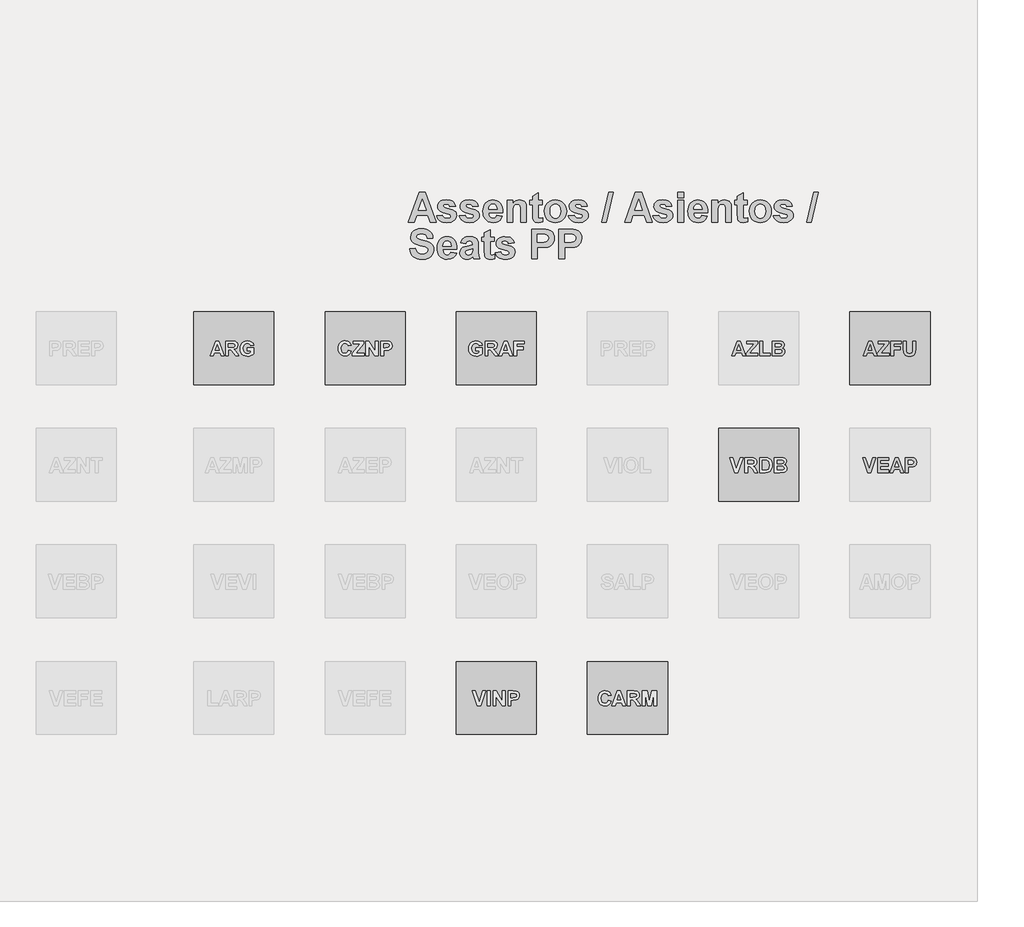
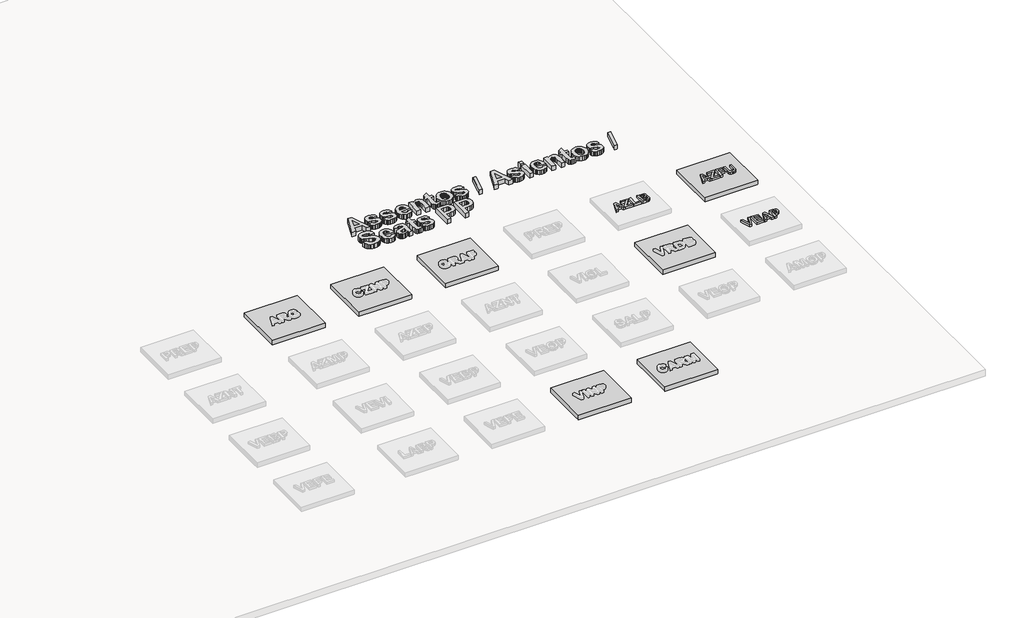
# One storey, part 10 of 11: 11 proxies.
"""IFC4 building model written with IfcOpenShell, lengths in millimetres."""

from ifc_helpers import new_model, si_unit, frame, origin, origin_with_axes, place, context, project, spatial, polyline, outline, extrude, transform, mapped, element, save
from components import generic_models_24_generic_models_1_1e7ee512, generic_models_35_generic_models_1_a8d7d454, generic_models_48_generic_models_1_82bed69a, generic_models_49_generic_models_1_e7727c0e, generic_models_53_generic_models_1_e8810a95, generic_models_54_generic_models_1_2d09a9ca, generic_models_7_generic_models_1_56dbdd54

model = new_model("IFC4")

# Units and contexts
model_context = context("Model", 3, world=origin())
ifc_project = project(units=[si_unit("LENGTHUNIT", "METRE", prefix="MILLI")], contexts=[model_context])

# Site, building, storey
site = spatial("IfcSite", under=ifc_project)
building = spatial("IfcBuilding", under=site)
storey = spatial("IfcBuildingStorey", under=building, Name="Biblioteca BIM Revit Metadil - Refeitório", Elevation=0.0)

# Proxies
placement = place(None, origin())
element("IfcBuildingElementProxy", 1, Name="Arial 200mm", ObjectType="Arial 200mm", at=placement, inside=storey, context=model_context, shape_type="SweptSolid", body=[
    extrude(outline(polyline([(12109.0036143, 1948.6533221), (12068.1628735, 1948.6533221), (12052.1707122, 1993.9981843), (11975.0945681, 1993.9981843), (11959.3048393, 1948.6533221), (11917.9074092, 1948.6533221), (11992.40254, 2152.7052021), (12033.7999701, 2152.7052021), (12109.0036143, 1948.6533221)]), holes=[polyline([(12039.7211184, 2029.6262903), (12013.4555118, 2104.1214211), (11987.5441619, 2029.6262903), (12039.7211184, 2029.6262903)])]), frame((0.0, 0.0, 100.0), z_axis=(0.0, 0.0, 1.0), x_axis=(1.0, 0.0, 0.0)), (0.0, 0.0, 1.0), 50.0),
    extrude(outline(polyline([(12112.242533, 1948.6533221), (12112.242533, 1987.5203468), (12221.6066483, 2117.077096), (12125.198208, 2117.077096), (12125.198208, 2152.7052021), (12270.9495508, 2152.7052021), (12270.9495508, 2117.077096), (12158.8525979, 1984.2814281), (12274.1884695, 1984.2814281), (12274.1884695, 1948.6533221), (12112.242533, 1948.6533221)])), frame((0.0, 0.0, 100.0), z_axis=(0.0, 0.0, 1.0), x_axis=(1.0, 0.0, 0.0)), (0.0, 0.0, 1.0), 50.0),
    extrude(outline(polyline([(12300.0998194, 1948.6533221), (12300.0998194, 2152.7052021), (12439.3733248, 2152.7052021), (12439.3733248, 2117.077096), (12338.9668441, 2117.077096), (12338.9668441, 2071.7322338), (12426.4176499, 2071.7322338), (12426.4176499, 2036.1041278), (12338.9668441, 2036.1041278), (12338.9668441, 1948.6533221), (12300.0998194, 1948.6533221)])), frame((0.0, 0.0, 100.0), z_axis=(0.0, 0.0, 1.0), x_axis=(1.0, 0.0, 0.0)), (0.0, 0.0, 1.0), 50.0),
    extrude(outline(polyline([(12471.7625121, 2152.7052021), (12510.6295368, 2152.7052021), (12510.6295368, 2042.6325734), (12512.2996043, 2008.6239267), (12517.1706344, 1997.3952534), (12526.0144008, 1988.6084211), (12538.8309034, 1982.9339873), (12555.6201423, 1981.0425094), (12572.3904032, 1982.8264451), (12584.4414582, 1988.1782522), (12592.2034763, 1996.1300507), (12596.1066264, 2005.7139606), (12598.0803425, 2040.2539924), (12598.0803425, 2152.7052021), (12636.9473673, 2152.7052021), (12636.9473673, 2045.6690597), (12633.5566243, 1993.7957519), (12628.7362022, 1979.8342409), (12621.0564223, 1968.2133547), (12610.4097422, 1958.8318772), (12596.6886197, 1951.5885922), (12579.0959771, 1946.9579506), (12556.8347368, 1945.4144034), (12530.7589107, 1947.0971228), (12511.8441314, 1952.1452813), (12498.1166828, 1959.8883214), (12487.602849, 1969.6556857), (12475.8617686, 1992.2775087), (12471.7625121, 2043.9989922), (12471.7625121, 2152.7052021)])), frame((0.0, 0.0, 100.0), z_axis=(0.0, 0.0, 1.0), x_axis=(1.0, 0.0, 0.0)), (0.0, 0.0, 1.0), 50.0),
])
element("IfcBuildingElementProxy", 2, Name="Arial 200mm", ObjectType="Arial 200mm", at=placement, inside=storey, context=model_context, shape_type="SweptSolid", body=[
    extrude(outline(polyline([(10309.0036143, 1948.6533221), (10268.1628735, 1948.6533221), (10252.1707122, 1993.9981843), (10175.0945681, 1993.9981843), (10159.3048393, 1948.6533221), (10117.9074092, 1948.6533221), (10192.40254, 2152.7052021), (10233.7999701, 2152.7052021), (10309.0036143, 1948.6533221)]), holes=[polyline([(10239.7211184, 2029.6262903), (10213.4555118, 2104.1214211), (10187.5441619, 2029.6262903), (10239.7211184, 2029.6262903)])]), frame((0.0, 0.0, 100.0), z_axis=(0.0, 0.0, 1.0), x_axis=(1.0, 0.0, 0.0)), (0.0, 0.0, 1.0), 50.0),
    extrude(outline(polyline([(10312.242533, 1948.6533221), (10312.242533, 1987.5203468), (10421.6066483, 2117.077096), (10325.198208, 2117.077096), (10325.198208, 2152.7052021), (10470.9495508, 2152.7052021), (10470.9495508, 2117.077096), (10358.8525979, 1984.2814281), (10474.1884695, 1984.2814281), (10474.1884695, 1948.6533221), (10312.242533, 1948.6533221)])), frame((0.0, 0.0, 100.0), z_axis=(0.0, 0.0, 1.0), x_axis=(1.0, 0.0, 0.0)), (0.0, 0.0, 1.0), 50.0),
    extrude(outline(polyline([(10500.0998194, 1948.6533221), (10500.0998194, 2152.7052021), (10538.9668441, 2152.7052021), (10538.9668441, 1984.2814281), (10642.6122435, 1984.2814281), (10642.6122435, 1948.6533221), (10500.0998194, 1948.6533221)])), frame((0.0, 0.0, 100.0), z_axis=(0.0, 0.0, 1.0), x_axis=(1.0, 0.0, 0.0)), (0.0, 0.0, 1.0), 50.0),
    extrude(outline(polyline([(10671.7625121, 2152.7052021), (10755.5189261, 2152.7052021), (10792.5893631, 2150.6808779), (10814.4520646, 2142.2040203), (10830.520138, 2125.0478726), (10835.34056, 2113.692679), (10836.9473673, 2101.0343267), (10835.0305853, 2087.2436181), (10829.2802394, 2074.6168958), (10820.2403666, 2064.0777579), (10808.4550041, 2056.5498023), (10823.3590911, 2049.2369311), (10834.3663539, 2038.128452), (10841.1604921, 2023.9708346), (10843.4252048, 2007.5105484), (10841.7994194, 1993.840034), (10836.9220633, 1980.5617324), (10829.2296313, 1968.7953479), (10819.1586183, 1959.660585), (10806.5888302, 1953.3408978), (10791.4000727, 1950.0197409), (10741.500481, 1948.6533221), (10671.7625121, 1948.6533221), (10671.7625121, 2152.7052021)]), holes=[polyline([(10710.6295368, 2036.1041278), (10710.6295368, 1984.2814281), (10751.7233182, 1984.2814281), (10782.1893975, 1985.4960226), (10798.3333831, 1993.2137587), (10803.0019808, 2000.4064356), (10804.55818, 2009.6866969), (10799.75041, 2024.4642636), (10785.8837892, 2033.320682), (10746.5106834, 2036.1041278), (10710.6295368, 2036.1041278)]), polyline([(10710.6295368, 2117.077096), (10710.6295368, 2071.7322338), (10740.2858865, 2071.7322338), (10773.1811548, 2072.3901392), (10791.4253767, 2079.4246658), (10796.4166011, 2086.1681958), (10798.0803425, 2094.7589217), (10796.6443376, 2102.9764127), (10792.3363226, 2109.5111843), (10775.3066952, 2116.4191907), (10736.6421029, 2117.077096), (10710.6295368, 2117.077096)])]), frame((0.0, 0.0, 100.0), z_axis=(0.0, 0.0, 1.0), x_axis=(1.0, 0.0, 0.0)), (0.0, 0.0, 1.0), 50.0),
])
element("IfcBuildingElementProxy", 3, Name="Arial 200mm", ObjectType="Arial 200mm", at=placement, inside=storey, context=model_context, shape_type="SweptSolid", body=[
    extrude(outline(polyline([(11978.5865273, 348.6533221), (11909.8101124, 552.7052021), (11950.8026776, 552.7052021), (12002.1192962, 400.4760218), (12053.5877392, 552.7052021), (12094.42848, 552.7052021), (12022.0082816, 348.6533221), (11978.5865273, 348.6533221)])), frame((0.0, 0.0, 100.0), z_axis=(0.0, 0.0, 1.0), x_axis=(1.0, 0.0, 0.0)), (0.0, 0.0, 1.0), 50.0),
    extrude(outline(polyline([(12117.1009111, 348.6533221), (12117.1009111, 552.7052021), (12269.3300915, 552.7052021), (12269.3300915, 517.077096), (12155.9679359, 517.077096), (12155.9679359, 471.7322338), (12262.852254, 471.7322338), (12262.852254, 436.1041278), (12155.9679359, 436.1041278), (12155.9679359, 384.2814281), (12272.5690102, 384.2814281), (12272.5690102, 348.6533221), (12117.1009111, 348.6533221)])), frame((0.0, 0.0, 100.0), z_axis=(0.0, 0.0, 1.0), x_axis=(1.0, 0.0, 0.0)), (0.0, 0.0, 1.0), 50.0),
    extrude(outline(polyline([(12476.6208902, 348.6533221), (12435.7801493, 348.6533221), (12419.7879881, 393.9981843), (12342.7118439, 393.9981843), (12326.9221151, 348.6533221), (12285.5246851, 348.6533221), (12360.0198159, 552.7052021), (12401.4172459, 552.7052021), (12476.6208902, 348.6533221)]), holes=[polyline([(12407.3383942, 429.6262903), (12381.0727876, 504.1214211), (12355.1614378, 429.6262903), (12407.3383942, 429.6262903)])]), frame((0.0, 0.0, 100.0), z_axis=(0.0, 0.0, 1.0), x_axis=(1.0, 0.0, 0.0)), (0.0, 0.0, 1.0), 50.0),
    extrude(outline(polyline([(12496.0544026, 348.6533221), (12496.0544026, 552.7052021), (12561.7943312, 552.7052021), (12610.5299364, 549.6687158), (12626.5663797, 542.4254307), (12639.7561171, 529.8050345), (12648.5809055, 512.2756521), (12651.5225016, 490.3054084), (12649.7955, 473.1176307), (12644.6144952, 458.9030792), (12636.7702389, 447.5415596), (12627.0534828, 438.9128776), (12605.4185178, 429.2720336), (12562.1485879, 426.3873716), (12534.9214273, 426.3873716), (12534.9214273, 348.6533221), (12496.0544026, 348.6533221)]), holes=[polyline([(12534.9214273, 517.077096), (12534.9214273, 462.0154776), (12559.0614935, 462.0154776), (12593.9051739, 465.0519639), (12607.6705785, 474.5915918), (12612.6554768, 489.6981112), (12610.9031712, 499.3516072), (12605.6462543, 507.1579074), (12587.9587215, 515.7612853), (12556.2274396, 517.077096), (12534.9214273, 517.077096)])]), frame((0.0, 0.0, 100.0), z_axis=(0.0, 0.0, 1.0), x_axis=(1.0, 0.0, 0.0)), (0.0, 0.0, 1.0), 50.0),
])
element("IfcBuildingElementProxy", 4, Name="Arial 400mm", ObjectType="Arial 400mm", at=placement, inside=storey, context=model_context, shape_type="SweptSolid", body=[
    extrude(outline(polyline([(6061.9176964, 3784.7471537), (5980.2362147, 3784.7471537), (5948.2518922, 3875.4368782), (5794.0996039, 3875.4368782), (5762.5201463, 3784.7471537), (5679.7252863, 3784.7471537), (5828.7155478, 4192.8509137), (5911.5104079, 4192.8509137), (6061.9176964, 3784.7471537)]), holes=[polyline([(5923.3527045, 3946.6930902), (5870.8214913, 4095.6833518), (5818.9987917, 3946.6930902), (5923.3527045, 3946.6930902)])]), origin_with_axes(), (0.0, 0.0, 1.0), 100.0),
    extrude(outline(polyline([(6068.3955339, 3868.9590407), (6146.1295834, 3881.9147156), (6153.5310188, 3862.3293789), (6166.0185687, 3848.1085014), (6184.0224021, 3839.4545154), (6207.9726879, 3836.5698534), (6233.9599499, 3839.3279952), (6252.6090366, 3847.6024203), (6260.2002524, 3856.6106631), (6262.7306577, 3868.2505272), (6257.3661985, 3882.8256615), (6231.9609297, 3893.0484988), (6156.8838057, 3912.9374841), (6115.4610717, 3931.1057939), (6100.5380067, 3944.3208353), (6089.8786745, 3959.8765016), (6083.4830752, 3977.7727928), (6081.3512088, 3998.0097089), (6083.1794266, 4016.5259493), (6088.66408, 4033.5112946), (6097.805169, 4048.9657447), (6110.6026936, 4062.8892997), (6127.2464341, 4074.4026436), (6147.9261711, 4082.6264607), (6172.6419045, 4087.5607509), (6201.3936342, 4089.2055144), (6252.3813002, 4083.8916633), (6272.2386554, 4077.2493495), (6288.3383589, 4067.9501102), (6301.4521841, 4056.0445535), (6312.3519048, 4041.5832874), (6327.5090323, 4004.9936274), (6249.7749827, 3992.0379525), (6244.0562669, 4008.662715), (6234.7949836, 4020.8845724), (6221.4344439, 4028.399876), (6203.4179584, 4030.9049772), (6181.2769124, 4028.7794368), (6166.4740417, 4022.4028156), (6160.9324541, 4015.418897), (6159.0852583, 4006.6130867), (6160.9324541, 3998.9965669), (6166.4740417, 3992.5440335), (6188.6277397, 3983.2574462), (6235.2504566, 3970.7825483), (6285.2133084, 3955.0687316), (6317.3874112, 3936.0653882), (6327.4837282, 3924.5583702), (6334.6953832, 3910.9890721), (6339.0223762, 3895.3574936), (6340.4647072, 3877.6636348), (6338.3739598, 3857.9865709), (6332.1017178, 3839.745512), (6321.6479811, 3822.9404581), (6307.0127497, 3807.5714092), (6288.2782617, 3794.7517435), (6265.5267555, 3785.5948395), (6238.7582309, 3780.1006971), (6207.9726879, 3778.2693163), (6179.7681583, 3779.7938854), (6154.6697011, 3784.367593), (6132.6773164, 3791.9904388), (6113.7910042, 3802.662423), (6097.9538303, 3815.9533766), (6085.1088606, 3831.4331307), (6075.2560951, 3849.1016855), (6068.3955339, 3868.9590407)])), origin_with_axes(), (0.0, 0.0, 1.0), 100.0),
    extrude(outline(polyline([(6379.3317319, 3868.9590407), (6457.0657815, 3881.9147156), (6464.4672168, 3862.3293789), (6476.9547668, 3848.1085014), (6494.9586002, 3839.4545154), (6518.908886, 3836.5698534), (6544.896148, 3839.3279952), (6563.5452347, 3847.6024203), (6571.1364505, 3856.6106631), (6573.6668557, 3868.2505272), (6568.3023966, 3882.8256615), (6542.8971278, 3893.0484988), (6467.8200038, 3912.9374841), (6426.3972697, 3931.1057939), (6411.4742047, 3944.3208353), (6400.8148726, 3959.8765016), (6394.4192733, 3977.7727928), (6392.2874069, 3998.0097089), (6394.1156247, 4016.5259493), (6399.6002781, 4033.5112946), (6408.7413671, 4048.9657447), (6421.5388916, 4062.8892997), (6438.1826322, 4074.4026436), (6458.8623692, 4082.6264607), (6483.5781026, 4087.5607509), (6512.3298323, 4089.2055144), (6563.3174982, 4083.8916633), (6583.1748535, 4077.2493495), (6599.274557, 4067.9501102), (6612.3883822, 4056.0445535), (6623.2881029, 4041.5832874), (6638.4452303, 4004.9936274), (6560.7111808, 3992.0379525), (6554.9924649, 4008.662715), (6545.7311817, 4020.8845724), (6532.3706419, 4028.399876), (6514.3541565, 4030.9049772), (6492.2131105, 4028.7794368), (6477.4102397, 4022.4028156), (6471.8686522, 4015.418897), (6470.0214564, 4006.6130867), (6471.8686522, 3998.9965669), (6477.4102397, 3992.5440335), (6499.5639378, 3983.2574462), (6546.1866546, 3970.7825483), (6596.1495065, 3955.0687316), (6628.3236093, 3936.0653882), (6638.4199263, 3924.5583702), (6645.6315813, 3910.9890721), (6649.9585743, 3895.3574936), (6651.4009053, 3877.6636348), (6649.3101579, 3857.9865709), (6643.0379159, 3839.745512), (6632.5841792, 3822.9404581), (6617.9489478, 3807.5714092), (6599.2144598, 3794.7517435), (6576.4629536, 3785.5948395), (6549.6944289, 3780.1006971), (6518.908886, 3778.2693163), (6490.7043564, 3779.7938854), (6465.6058992, 3784.367593), (6443.6135145, 3791.9904388), (6424.7272023, 3802.662423), (6408.8900284, 3815.9533766), (6396.0450587, 3831.4331307), (6386.1922932, 3849.1016855), (6379.3317319, 3868.9590407)])), origin_with_axes(), (0.0, 0.0, 1.0), 100.0),
    extrude(outline(polyline([(6891.0808913, 3875.4368782), (6968.8149408, 3862.4812033), (6949.8875095, 3826.2078439), (6937.2354832, 3811.7623929), (6922.4579165, 3799.777761), (6905.6243955, 3790.3678164), (6886.8045064, 3783.6464275), (6843.2056238, 3778.2693163), (6808.0013607, 3781.4386489), (6777.6934317, 3790.9466466), (6752.2818369, 3806.7933095), (6731.7665763, 3828.9786376), (6719.2790263, 3850.6072766), (6710.3593478, 3874.9054931), (6705.0075407, 3901.8732871), (6703.2236049, 3931.5106587), (6705.5895339, 3966.4555553), (6712.6873206, 3997.4024116), (6724.5169652, 4024.3512276), (6741.0784676, 4047.3020033), (6761.2584495, 4065.6347894), (6783.9435327, 4078.7296366), (6809.133717, 4086.5865449), (6836.8290026, 4089.2055144), (6867.6050565, 4086.5169588), (6894.9524113, 4078.451292), (6918.871067, 4065.0085141), (6939.3610236, 4046.188625), (6955.6884635, 4021.8144963), (6967.1195693, 3991.7089998), (6973.6543409, 3955.8721353), (6975.2927783, 3914.3039029), (6780.9576545, 3914.3039029), (6785.9425528, 3881.5604589), (6799.2777885, 3857.0155279), (6818.9390374, 3841.681272), (6842.9019752, 3836.5698534), (6859.2230891, 3838.8725222), (6872.7607572, 3845.7805286), (6883.4137634, 3857.7999535), (6891.0808913, 3875.4368782)]), holes=[polyline([(6897.5587287, 3959.6487652), (6892.8268709, 3990.380537), (6880.2507568, 4012.7366675), (6861.9812308, 4026.3628998), (6840.1691375, 4030.9049772), (6817.1424497, 4026.1225113), (6798.4680589, 4011.7751135), (6786.2208974, 3989.1279864), (6782.2734652, 3959.6487652), (6897.5587287, 3959.6487652)])]), origin_with_axes(), (0.0, 0.0, 1.0), 100.0),
    extrude(outline(polyline([(7299.1846513, 3784.7471537), (7221.4506018, 3784.7471537), (7221.4506018, 3937.8872799), (7220.2360072, 3977.9688992), (7216.5922237, 4000.8437628), (7210.1902984, 4013.5210931), (7200.7012786, 4023.0101128), (7188.5806375, 4028.9312611), (7174.2838477, 4030.9049772), (7155.4702847, 4028.0835754), (7138.7063498, 4019.6193698), (7125.4470263, 4006.4865665), (7117.147297, 3989.6593715), (7112.782348, 3963.0774643), (7111.3273649, 3920.6805242), (7111.3273649, 3784.7471537), (7033.5933154, 3784.7471537), (7033.5933154, 4082.7276769), (7111.3273649, 4082.7276769), (7111.3273649, 4039.8120037), (7130.9949398, 4061.4216646), (7153.0537476, 4076.8571367), (7177.5037884, 4086.1184199), (7204.3450622, 4089.2055144), (7227.9790473, 4086.8522375), (7249.487492, 4079.7924068), (7267.4533693, 4069.0887926), (7280.4596524, 4055.804165), (7289.3793309, 4040.2548246), (7295.0853948, 4022.7570723), (7299.1846513, 3969.7703862), (7299.1846513, 3784.7471537)])), origin_with_axes(), (0.0, 0.0, 1.0), 100.0),
    extrude(outline(polyline([(7519.4311249, 4082.7276769), (7519.4311249, 4024.4271398), (7461.1305878, 4024.4271398), (7461.1305878, 3896.5910661), (7462.9018715, 3851.3980282), (7470.9485602, 3840.7703261), (7486.2322079, 3836.5698534), (7522.6700436, 3844.059853), (7525.9089624, 3788.7958022), (7495.9236601, 3780.9009377), (7462.2439661, 3778.2693163), (7441.5452511, 3780.0912081), (7422.9720765, 3785.5568834), (7407.802297, 3793.9072208), (7397.3137672, 3804.3830985), (7390.3931088, 3817.9713748), (7385.9269435, 3835.6589075), (7383.3965383, 3892.2387691), (7383.3965383, 4024.4271398), (7344.5295135, 4024.4271398), (7344.5295135, 4082.7276769), (7383.3965383, 4082.7276769), (7383.3965383, 4141.028214), (7461.1305878, 4186.3730763), (7461.1305878, 4082.7276769), (7519.4311249, 4082.7276769)])), origin_with_axes(), (0.0, 0.0, 1.0), 100.0),
    extrude(outline(polyline([(7545.3424748, 3937.9884962), (7550.1375927, 3976.5392203), (7564.5229466, 4013.8500458), (7587.6888067, 4046.201277), (7618.8254434, 4069.8732182), (7655.9970967, 4084.3724403), (7697.2680064, 4089.2055144), (7729.2554919, 4086.4663507), (7758.2128171, 4078.2488596), (7784.1399819, 4064.5530411), (7807.0369865, 4045.3788953), (7825.7461704, 4022.0169288), (7839.1098732, 3995.7576482), (7847.1280948, 3966.6010536), (7849.8008354, 3934.547145), (7847.0996278, 3902.2370329), (7838.9960049, 3872.8179087), (7825.4899669, 3846.2897726), (7806.5815136, 3822.6526245), (7783.5801298, 3803.2349272), (7757.7953002, 3789.3651433), (7729.2270248, 3781.043273), (7697.8753037, 3778.2693163), (7658.2365053, 3782.8873059), (7620.4955109, 3796.7412747), (7588.1063236, 3819.527574), (7564.5229466, 3850.9425553), (7550.1375927, 3890.5687016), (7545.3424748, 3937.9884962)]), holes=[polyline([(7623.0765243, 3933.7374153), (7628.4536354, 3892.175509), (7635.1750244, 3875.5222794), (7644.584969, 3861.6208655), (7655.9686296, 3850.6610477), (7668.6111669, 3842.8326064), (7682.5125808, 3838.1355417), (7697.6728713, 3836.5698534), (7712.8268358, 3838.1355417), (7726.7092716, 3842.8326064), (7739.3201788, 3850.6610477), (7750.6595574, 3861.6208655), (7760.0252198, 3875.5602354), (7766.7149787, 3892.3273333), (7772.0667859, 3934.3447126), (7766.7149787, 3975.451146), (7760.0252198, 3991.9905074), (7750.6595574, 4005.8539652), (7739.3201788, 4016.8137829), (7726.7092716, 4024.6422242), (7712.8268358, 4029.339289), (7697.6728713, 4030.9049772), (7682.5125808, 4029.339289), (7668.6111669, 4024.6422242), (7655.9686296, 4016.8137829), (7644.584969, 4005.8539652), (7635.1750244, 3991.9525513), (7628.4536354, 3975.2993217), (7623.0765243, 3933.7374153)])]), origin_with_axes(), (0.0, 0.0, 1.0), 100.0),
    extrude(outline(polyline([(7875.7121852, 3868.9590407), (7953.4462347, 3881.9147156), (7960.8476701, 3862.3293789), (7973.3352201, 3848.1085014), (7991.3390535, 3839.4545154), (8015.2893392, 3836.5698534), (8041.2766012, 3839.3279952), (8059.925688, 3847.6024203), (8067.5169038, 3856.6106631), (8070.047309, 3868.2505272), (8064.6828499, 3882.8256615), (8039.2775811, 3893.0484988), (7964.2004571, 3912.9374841), (7922.777723, 3931.1057939), (7907.854658, 3944.3208353), (7897.1953259, 3959.8765016), (7890.7997266, 3977.7727928), (7888.6678601, 3998.0097089), (7890.4960779, 4016.5259493), (7895.9807313, 4033.5112946), (7905.1218203, 4048.9657447), (7917.9193449, 4062.8892997), (7934.5630855, 4074.4026436), (7955.2428225, 4082.6264607), (7979.9585558, 4087.5607509), (8008.7102856, 4089.2055144), (8059.6979515, 4083.8916633), (8079.5553068, 4077.2493495), (8095.6550102, 4067.9501102), (8108.7688355, 4056.0445535), (8119.6685561, 4041.5832874), (8134.8256836, 4004.9936274), (8057.0916341, 3992.0379525), (8051.3729182, 4008.662715), (8042.111635, 4020.8845724), (8028.7510952, 4028.399876), (8010.7346098, 4030.9049772), (7988.5935638, 4028.7794368), (7973.790693, 4022.4028156), (7968.2491055, 4015.418897), (7966.4019097, 4006.6130867), (7968.2491055, 3998.9965669), (7973.790693, 3992.5440335), (7995.944391, 3983.2574462), (8042.5671079, 3970.7825483), (8092.5299597, 3955.0687316), (8124.7040626, 3936.0653882), (8134.8003796, 3924.5583702), (8142.0120346, 3910.9890721), (8146.3390275, 3895.3574936), (8147.7813585, 3877.6636348), (8145.6906112, 3857.9865709), (8139.4183692, 3839.745512), (8128.9646324, 3822.9404581), (8114.329401, 3807.5714092), (8095.5949131, 3794.7517435), (8072.8434068, 3785.5948395), (8046.0748822, 3780.1006971), (8015.2893392, 3778.2693163), (7987.0848096, 3779.7938854), (7961.9863525, 3784.367593), (7939.9939678, 3791.9904388), (7921.1076555, 3802.662423), (7905.2704816, 3815.9533766), (7892.4255119, 3831.4331307), (7882.5727465, 3849.1016855), (7875.7121852, 3868.9590407)])), origin_with_axes(), (0.0, 0.0, 1.0), 100.0),
    extrude(outline(polyline([(8334.2216179, 3784.7471537), (8431.3891798, 4192.8509137), (8491.1067439, 4192.8509137), (8393.939182, 3784.7471537), (8334.2216179, 3784.7471537)])), origin_with_axes(), (0.0, 0.0, 1.0), 100.0),
    extrude(outline(polyline([(9028.7672531, 3784.7471537), (8947.0857714, 3784.7471537), (8915.1014489, 3875.4368782), (8760.9491606, 3875.4368782), (8729.369703, 3784.7471537), (8646.574843, 3784.7471537), (8795.5651045, 4192.8509137), (8878.3599646, 4192.8509137), (9028.7672531, 3784.7471537)]), holes=[polyline([(8890.2022612, 3946.6930902), (8837.671048, 4095.6833518), (8785.8483484, 3946.6930902), (8890.2022612, 3946.6930902)])]), origin_with_axes(), (0.0, 0.0, 1.0), 100.0),
    extrude(outline(polyline([(9035.2450906, 3868.9590407), (9112.9791401, 3881.9147156), (9120.3805755, 3862.3293789), (9132.8681254, 3848.1085014), (9150.8719588, 3839.4545154), (9174.8222446, 3836.5698534), (9200.8095066, 3839.3279952), (9219.4585933, 3847.6024203), (9227.0498091, 3856.6106631), (9229.5802144, 3868.2505272), (9224.2157552, 3882.8256615), (9198.8104864, 3893.0484988), (9123.7333624, 3912.9374841), (9082.3106284, 3931.1057939), (9067.3875634, 3944.3208353), (9056.7282312, 3959.8765016), (9050.3326319, 3977.7727928), (9048.2007655, 3998.0097089), (9050.0289833, 4016.5259493), (9055.5136367, 4033.5112946), (9064.6547257, 4048.9657447), (9077.4522503, 4062.8892997), (9094.0959908, 4074.4026436), (9114.7757278, 4082.6264607), (9139.4914612, 4087.5607509), (9168.2431909, 4089.2055144), (9219.2308569, 4083.8916633), (9239.0882121, 4077.2493495), (9255.1879156, 4067.9501102), (9268.3017408, 4056.0445535), (9279.2014615, 4041.5832874), (9294.358589, 4004.9936274), (9216.6245394, 3992.0379525), (9210.9058236, 4008.662715), (9201.6445403, 4020.8845724), (9188.2840006, 4028.399876), (9170.2675151, 4030.9049772), (9148.1264691, 4028.7794368), (9133.3235984, 4022.4028156), (9127.7820108, 4015.418897), (9125.934815, 4006.6130867), (9127.7820108, 3998.9965669), (9133.3235984, 3992.5440335), (9155.4772964, 3983.2574462), (9202.1000133, 3970.7825483), (9252.0628651, 3955.0687316), (9284.2369679, 3936.0653882), (9294.3332849, 3924.5583702), (9301.5449399, 3910.9890721), (9305.8719329, 3895.3574936), (9307.3142639, 3877.6636348), (9305.2235165, 3857.9865709), (9298.9512745, 3839.745512), (9288.4975378, 3822.9404581), (9273.8623064, 3807.5714092), (9255.1278184, 3794.7517435), (9232.3763122, 3785.5948395), (9205.6077876, 3780.1006971), (9174.8222446, 3778.2693163), (9146.617715, 3779.7938854), (9121.5192578, 3784.367593), (9099.5268731, 3791.9904388), (9080.6405609, 3802.662423), (9064.803387, 3815.9533766), (9051.9584173, 3831.4331307), (9042.1056518, 3849.1016855), (9035.2450906, 3868.9590407)])), origin_with_axes(), (0.0, 0.0, 1.0), 100.0),
    extrude(outline(polyline([(9378.5704759, 4121.5947017), (9378.5704759, 4192.8509137), (9456.3045255, 4192.8509137), (9456.3045255, 4121.5947017), (9378.5704759, 4121.5947017)])), origin_with_axes(), (0.0, 0.0, 1.0), 100.0),
    extrude(outline(polyline([(9378.5704759, 3784.7471537), (9378.5704759, 4082.7276769), (9456.3045255, 4082.7276769), (9456.3045255, 3784.7471537), (9378.5704759, 3784.7471537)])), origin_with_axes(), (0.0, 0.0, 1.0), 100.0),
    extrude(outline(polyline([(9702.4623489, 3875.4368782), (9780.1963985, 3862.4812033), (9761.2689671, 3826.2078439), (9748.6169409, 3811.7623929), (9733.8393741, 3799.777761), (9717.0058532, 3790.3678164), (9698.1859641, 3783.6464275), (9654.5870815, 3778.2693163), (9619.3828183, 3781.4386489), (9589.0748893, 3790.9466466), (9563.6632945, 3806.7933095), (9543.1480339, 3828.9786376), (9530.660484, 3850.6072766), (9521.7408054, 3874.9054931), (9516.3889983, 3901.8732871), (9514.6050626, 3931.5106587), (9516.9709915, 3966.4555553), (9524.0687783, 3997.4024116), (9535.8984229, 4024.3512276), (9552.4599253, 4047.3020033), (9572.6399072, 4065.6347894), (9595.3249903, 4078.7296366), (9620.5151747, 4086.5865449), (9648.2104602, 4089.2055144), (9678.9865142, 4086.5169588), (9706.333869, 4078.451292), (9730.2525247, 4065.0085141), (9750.7424813, 4046.188625), (9767.0699212, 4021.8144963), (9778.5010269, 3991.7089998), (9785.0357985, 3955.8721353), (9786.6742359, 3914.3039029), (9592.3391121, 3914.3039029), (9597.3240105, 3881.5604589), (9610.6592462, 3857.0155279), (9630.320495, 3841.681272), (9654.2834328, 3836.5698534), (9670.6045468, 3838.8725222), (9684.1422149, 3845.7805286), (9694.795221, 3857.7999535), (9702.4623489, 3875.4368782)]), holes=[polyline([(9708.9401864, 3959.6487652), (9704.2083286, 3990.380537), (9691.6322144, 4012.7366675), (9673.3626885, 4026.3628998), (9651.5505952, 4030.9049772), (9628.5239073, 4026.1225113), (9609.8495165, 4011.7751135), (9597.6023551, 3989.1279864), (9593.6549229, 3959.6487652), (9708.9401864, 3959.6487652)])]), origin_with_axes(), (0.0, 0.0, 1.0), 100.0),
    extrude(outline(polyline([(10110.5661089, 3784.7471537), (10032.8320594, 3784.7471537), (10032.8320594, 3937.8872799), (10031.6174649, 3977.9688992), (10027.9736813, 4000.8437628), (10021.571756, 4013.5210931), (10012.0827363, 4023.0101128), (9999.9620951, 4028.9312611), (9985.6653054, 4030.9049772), (9966.8517423, 4028.0835754), (9950.0878075, 4019.6193698), (9936.8284839, 4006.4865665), (9928.5287547, 3989.6593715), (9924.1638056, 3963.0774643), (9922.7088226, 3920.6805242), (9922.7088226, 3784.7471537), (9844.9747731, 3784.7471537), (9844.9747731, 4082.7276769), (9922.7088226, 4082.7276769), (9922.7088226, 4039.8120037), (9942.3763975, 4061.4216646), (9964.4352053, 4076.8571367), (9988.8852461, 4086.1184199), (10015.7265199, 4089.2055144), (10039.360505, 4086.8522375), (10060.8689497, 4079.7924068), (10078.834827, 4069.0887926), (10091.84111, 4055.804165), (10100.7607886, 4040.2548246), (10106.4668524, 4022.7570723), (10110.5661089, 3969.7703862), (10110.5661089, 3784.7471537)])), origin_with_axes(), (0.0, 0.0, 1.0), 100.0),
    extrude(outline(polyline([(10330.8125826, 4082.7276769), (10330.8125826, 4024.4271398), (10272.5120454, 4024.4271398), (10272.5120454, 3896.5910661), (10274.2833291, 3851.3980282), (10282.3300178, 3840.7703261), (10297.6136656, 3836.5698534), (10334.0515013, 3844.059853), (10337.29042, 3788.7958022), (10307.3051177, 3780.9009377), (10273.6254237, 3778.2693163), (10252.9267087, 3780.0912081), (10234.3535341, 3785.5568834), (10219.1837546, 3793.9072208), (10208.6952248, 3804.3830985), (10201.7745665, 3817.9713748), (10197.3084012, 3835.6589075), (10194.7779959, 3892.2387691), (10194.7779959, 4024.4271398), (10155.9109712, 4024.4271398), (10155.9109712, 4082.7276769), (10194.7779959, 4082.7276769), (10194.7779959, 4141.028214), (10272.5120454, 4186.3730763), (10272.5120454, 4082.7276769), (10330.8125826, 4082.7276769)])), origin_with_axes(), (0.0, 0.0, 1.0), 100.0),
    extrude(outline(polyline([(10356.7239324, 3937.9884962), (10361.5190504, 3976.5392203), (10375.9044043, 4013.8500458), (10399.0702644, 4046.201277), (10430.2069011, 4069.8732182), (10467.3785543, 4084.3724403), (10508.6494641, 4089.2055144), (10540.6369496, 4086.4663507), (10569.5942747, 4078.2488596), (10595.5214396, 4064.5530411), (10618.4184442, 4045.3788953), (10637.1276281, 4022.0169288), (10650.4913308, 3995.7576482), (10658.5095525, 3966.6010536), (10661.182293, 3934.547145), (10658.4810854, 3902.2370329), (10650.3774626, 3872.8179087), (10636.8714245, 3846.2897726), (10617.9629712, 3822.6526245), (10594.9615874, 3803.2349272), (10569.1767579, 3789.3651433), (10540.6084825, 3781.043273), (10509.2567614, 3778.2693163), (10469.617963, 3782.8873059), (10431.8769686, 3796.7412747), (10399.4877813, 3819.527574), (10375.9044043, 3850.9425553), (10361.5190504, 3890.5687016), (10356.7239324, 3937.9884962)]), holes=[polyline([(10434.4579819, 3933.7374153), (10439.8350931, 3892.175509), (10446.5564821, 3875.5222794), (10455.9664266, 3861.6208655), (10467.3500873, 3850.6610477), (10479.9926245, 3842.8326064), (10493.8940384, 3838.1355417), (10509.0543289, 3836.5698534), (10524.2082934, 3838.1355417), (10538.0907293, 3842.8326064), (10550.7016365, 3850.6610477), (10562.041015, 3861.6208655), (10571.4066775, 3875.5602354), (10578.0964364, 3892.3273333), (10583.4482435, 3934.3447126), (10578.0964364, 3975.451146), (10571.4066775, 3991.9905074), (10562.041015, 4005.8539652), (10550.7016365, 4016.8137829), (10538.0907293, 4024.6422242), (10524.2082934, 4029.339289), (10509.0543289, 4030.9049772), (10493.8940384, 4029.339289), (10479.9926245, 4024.6422242), (10467.3500873, 4016.8137829), (10455.9664266, 4005.8539652), (10446.5564821, 3991.9525513), (10439.8350931, 3975.2993217), (10434.4579819, 3933.7374153)])]), origin_with_axes(), (0.0, 0.0, 1.0), 100.0),
    extrude(outline(polyline([(10687.0936429, 3868.9590407), (10764.8276924, 3881.9147156), (10772.2291278, 3862.3293789), (10784.7166777, 3848.1085014), (10802.7205111, 3839.4545154), (10826.6707969, 3836.5698534), (10852.6580589, 3839.3279952), (10871.3071456, 3847.6024203), (10878.8983614, 3856.6106631), (10881.4287667, 3868.2505272), (10876.0643075, 3882.8256615), (10850.6590387, 3893.0484988), (10775.5819147, 3912.9374841), (10734.1591807, 3931.1057939), (10719.2361157, 3944.3208353), (10708.5767835, 3959.8765016), (10702.1811842, 3977.7727928), (10700.0493178, 3998.0097089), (10701.8775356, 4016.5259493), (10707.362189, 4033.5112946), (10716.503278, 4048.9657447), (10729.3008026, 4062.8892997), (10745.9445432, 4074.4026436), (10766.6242801, 4082.6264607), (10791.3400135, 4087.5607509), (10820.0917432, 4089.2055144), (10871.0794092, 4083.8916633), (10890.9367644, 4077.2493495), (10907.0364679, 4067.9501102), (10920.1502931, 4056.0445535), (10931.0500138, 4041.5832874), (10946.2071413, 4004.9936274), (10868.4730918, 3992.0379525), (10862.7543759, 4008.662715), (10853.4930926, 4020.8845724), (10840.1325529, 4028.399876), (10822.1160674, 4030.9049772), (10799.9750214, 4028.7794368), (10785.1721507, 4022.4028156), (10779.6305632, 4015.418897), (10777.7833673, 4006.6130867), (10779.6305632, 3998.9965669), (10785.1721507, 3992.5440335), (10807.3258487, 3983.2574462), (10853.9485656, 3970.7825483), (10903.9114174, 3955.0687316), (10936.0855202, 3936.0653882), (10946.1818372, 3924.5583702), (10953.3934922, 3910.9890721), (10957.7204852, 3895.3574936), (10959.1628162, 3877.6636348), (10957.0720689, 3857.9865709), (10950.7998268, 3839.745512), (10940.3460901, 3822.9404581), (10925.7108587, 3807.5714092), (10906.9763708, 3794.7517435), (10884.2248645, 3785.5948395), (10857.4563399, 3780.1006971), (10826.6707969, 3778.2693163), (10798.4662673, 3779.7938854), (10773.3678101, 3784.367593), (10751.3754254, 3791.9904388), (10732.4891132, 3802.662423), (10716.6519393, 3815.9533766), (10703.8069696, 3831.4331307), (10693.9542041, 3849.1016855), (10687.0936429, 3868.9590407)])), origin_with_axes(), (0.0, 0.0, 1.0), 100.0),
    extrude(outline(polyline([(11145.6030756, 3784.7471537), (11242.7706375, 4192.8509137), (11302.4882016, 4192.8509137), (11205.3206397, 3784.7471537), (11145.6030756, 3784.7471537)])), origin_with_axes(), (0.0, 0.0, 1.0), 100.0),
    extrude(outline(polyline([(5699.1587986, 3417.136341), (5776.8928482, 3423.6141785), (5788.2290637, 3388.8464103), (5807.2577113, 3364.7063441), (5834.105311, 3350.5866828), (5868.8983833, 3345.880129), (5905.0072664, 3350.0426456), (5930.9439203, 3362.5301956), (5946.5818248, 3380.5846371), (5951.7944596, 3401.4478284), (5949.6309631, 3414.6691959), (5943.1404736, 3425.790327), (5931.2349169, 3435.1907826), (5912.8262186, 3443.2501233), (5845.4162225, 3460.5580953), (5787.874807, 3478.4480604), (5766.6573589, 3488.8923081), (5750.4754173, 3500.3360659), (5733.6925044, 3518.0552287), (5721.7047095, 3537.6089354), (5714.5120325, 3558.9971858), (5712.1144736, 3582.2199801), (5716.5173787, 3612.2811945), (5729.7260942, 3640.3180848), (5751.2345388, 3664.1291983), (5780.5366317, 3681.5130824), (5817.1515958, 3692.1407845), (5860.5986541, 3695.6833518), (5896.5398978, 3693.4755732), (5927.7429576, 3686.8522375), (5954.2078336, 3675.8133445), (5975.9345257, 3660.3588944), (5992.9926202, 3641.2227047), (6005.4517031, 3619.1385928), (6013.3117744, 3594.1065588), (6016.5728342, 3566.1266026), (5938.8387847, 3566.1266026), (5930.2480588, 3592.8350301), (5915.407232, 3610.8135595), (5892.9498853, 3621.0237447), (5861.5096, 3624.4271398), (5828.4118992, 3620.8086602), (5803.4114953, 3609.9532217), (5793.2392661, 3599.0724791), (5789.8485231, 3585.0540339), (5792.9356175, 3571.8200145), (5802.1969007, 3560.6609273), (5829.0824566, 3547.5913841), (5878.362099, 3534.0916721), (5930.9565723, 3520.0479229), (5967.7866208, 3505.3462683), (5993.5967544, 3487.5448673), (6013.131483, 3464.2018788), (6025.4292526, 3435.0263062), (6029.5285091, 3399.7271529), (6024.682783, 3366.0221548), (6010.1456048, 3334.5439134), (5986.7393562, 3308.0758744), (5955.2864188, 3289.4014836), (5915.4451881, 3278.3183086), (5866.8740591, 3274.6239169), (5830.5500917, 3276.8981186), (5798.7049415, 3283.7207238), (5771.3386086, 3295.0917324), (5748.4510931, 3311.0111445), (5729.8842445, 3331.2891797), (5715.4799126, 3355.7360575), (5705.2380973, 3384.3517779), (5699.1587986, 3417.136341)])), origin_with_axes(), (0.0, 0.0, 1.0), 100.0),
    extrude(outline(polyline([(6262.7306577, 3371.7914788), (6340.4647072, 3358.8358039), (6321.5372759, 3322.5624445), (6308.8852496, 3308.1169935), (6294.1076829, 3296.1323616), (6277.2741619, 3286.7224171), (6258.4542728, 3280.0010281), (6214.8553902, 3274.6239169), (6179.651127, 3277.7932495), (6149.3431981, 3287.3012473), (6123.9316033, 3303.1479102), (6103.4163426, 3325.3332383), (6090.9287927, 3346.9618772), (6082.0091142, 3371.2600937), (6076.657307, 3398.2278877), (6074.8733713, 3427.8652593), (6077.2393002, 3462.8101559), (6084.337087, 3493.7570122), (6096.1667316, 3520.7058282), (6112.728234, 3543.6566039), (6132.9082159, 3561.98939), (6155.593299, 3575.0842372), (6180.7834834, 3582.9411456), (6208.4787689, 3585.560115), (6239.2548229, 3582.8715594), (6266.6021777, 3574.8058927), (6290.5208334, 3561.3631147), (6311.01079, 3542.5432256), (6327.3382299, 3518.169097), (6338.7693357, 3488.0636004), (6345.3041072, 3452.226736), (6346.9425446, 3410.6585036), (6152.6074208, 3410.6585036), (6157.5923192, 3377.9150595), (6170.9275549, 3353.3701285), (6190.5888038, 3338.0358727), (6214.5517416, 3332.9244541), (6230.8728555, 3335.2271228), (6244.4105236, 3342.1351292), (6255.0635297, 3354.1545542), (6262.7306577, 3371.7914788)]), holes=[polyline([(6269.2084951, 3456.0033658), (6264.4766373, 3486.7351377), (6251.9005232, 3509.0912681), (6233.6309972, 3522.7175004), (6211.8189039, 3527.2595779), (6188.792216, 3522.4771119), (6170.1178252, 3508.1297141), (6157.8706638, 3485.4825871), (6153.9232316, 3456.0033658), (6269.2084951, 3456.0033658)])]), origin_with_axes(), (0.0, 0.0, 1.0), 100.0),
    extrude(outline(polyline([(6470.0214564, 3488.3925531), (6398.7652443, 3501.348228), (6414.2133684, 3538.6970096), (6425.0213619, 3553.1962318), (6437.8853096, 3564.9120081), (6453.456791, 3573.9455549), (6472.3873853, 3580.3980883), (6520.3259129, 3585.560115), (6563.671755, 3582.4350645), (6594.3149627, 3573.059913), (6615.0136777, 3558.8896436), (6628.5260417, 3541.3792392), (6635.9654332, 3514.1647307), (6638.4452303, 3470.8821487), (6638.4452303, 3378.9778298), (6642.5444869, 3321.0821575), (6657.8787427, 3281.1017544), (6580.1446932, 3281.1017544), (6572.8571261, 3305.7985097), (6570.1242884, 3315.6164821), (6550.0075666, 3297.7138649), (6528.5244259, 3284.8973623), (6505.6242584, 3277.1922783), (6481.2564557, 3274.6239169), (6460.2635811, 3276.1832792), (6441.6176574, 3280.8613659), (6425.3186845, 3288.6581771), (6411.3666625, 3299.5737128), (6400.1854343, 3312.8678294), (6392.1988427, 3327.8003834), (6387.4068877, 3344.3713748), (6385.8095694, 3362.5808037), (6388.6562753, 3386.4172212), (6397.1963931, 3407.5208011), (6410.8732335, 3424.9552933), (6429.1301074, 3437.7844479), (6454.2064235, 3447.6277244), (6488.3415905, 3456.104582), (6532.5477703, 3466.0996828), (6560.7111808, 3475.4368782), (6560.7111808, 3483.6353912), (6558.2946438, 3503.8280252), (6551.0450327, 3517.239173), (6537.1151518, 3524.7544767), (6514.6578051, 3527.2595779), (6498.5391236, 3525.1087334), (6486.4184825, 3518.6562), (6477.2584154, 3506.7885993), (6470.0214564, 3488.3925531)]), holes=[polyline([(6560.7111808, 3417.136341), (6516.8845618, 3406.3568146), (6477.6126722, 3394.0590451), (6467.0608822, 3383.0011741), (6463.5436189, 3369.2610736), (6466.3650208, 3355.4830169), (6474.8292264, 3343.7039805), (6487.645729, 3335.6193357), (6503.524022, 3332.9244541), (6522.5779736, 3336.0621566), (6540.6703712, 3345.4752641), (6551.5511138, 3356.0523581), (6557.8771269, 3368.7549925), (6560.7111808, 3403.0672878), (6560.7111808, 3417.136341)])]), origin_with_axes(), (0.0, 0.0, 1.0), 100.0),
    extrude(outline(polyline([(6858.691704, 3579.0822775), (6858.691704, 3520.7817404), (6800.3911668, 3520.7817404), (6800.3911668, 3392.9456668), (6802.1624505, 3347.7526289), (6810.2091392, 3337.1249268), (6825.492787, 3332.9244541), (6861.9306227, 3340.4144536), (6865.1695414, 3285.1504028), (6835.1842391, 3277.2555384), (6801.5045452, 3274.6239169), (6780.8058302, 3276.4458087), (6762.2326556, 3281.9114841), (6747.062876, 3290.2618214), (6736.5743462, 3300.7376992), (6729.6536879, 3314.3259754), (6725.1875226, 3332.0135082), (6722.6571173, 3388.5933697), (6722.6571173, 3520.7817404), (6683.7900926, 3520.7817404), (6683.7900926, 3579.0822775), (6722.6571173, 3579.0822775), (6722.6571173, 3637.3828147), (6800.3911668, 3682.7276769), (6800.3911668, 3579.0822775), (6858.691704, 3579.0822775)])), origin_with_axes(), (0.0, 0.0, 1.0), 100.0),
    extrude(outline(polyline([(6871.6473789, 3365.3136414), (6949.3814284, 3378.2693163), (6956.7828638, 3358.6839796), (6969.2704138, 3344.463102), (6987.2742472, 3335.8091161), (7011.2245329, 3332.9244541), (7037.2117949, 3335.6825958), (7055.8608817, 3343.957021), (7063.4520975, 3352.9652637), (7065.9825027, 3364.6051279), (7060.6180436, 3379.1802622), (7035.2127748, 3389.4030994), (6960.1356508, 3409.2920847), (6918.7129167, 3427.4603945), (6903.7898517, 3440.6754359), (6893.1305195, 3456.2311023), (6886.7349203, 3474.1273935), (6884.6030538, 3494.3643095), (6886.4312716, 3512.88055), (6891.915925, 3529.8658953), (6901.057014, 3545.3203454), (6913.8545386, 3559.2439003), (6930.4982792, 3570.7572442), (6951.1780162, 3578.9810613), (6975.8937495, 3583.9153516), (7004.6454793, 3585.560115), (7055.6331452, 3580.246264), (7075.4905005, 3573.6039502), (7091.5902039, 3564.3047108), (7104.7040292, 3552.3991541), (7115.6037498, 3537.937888), (7130.7608773, 3501.348228), (7053.0268278, 3488.3925531), (7047.3081119, 3505.0173156), (7038.0468287, 3517.239173), (7024.6862889, 3524.7544767), (7006.6698035, 3527.2595779), (6984.5287575, 3525.1340374), (6969.7258867, 3518.7574162), (6964.1842992, 3511.7734977), (6962.3371034, 3502.9676874), (6964.1842992, 3495.3511676), (6969.7258867, 3488.8986342), (6991.8795847, 3479.6120469), (7038.5023016, 3467.1371489), (7088.4651534, 3451.4233323), (7120.6392563, 3432.4199888), (7130.7355733, 3420.9129709), (7137.9472282, 3407.3436727), (7142.2742212, 3391.7120942), (7143.7165522, 3374.0182354), (7141.6258049, 3354.3411716), (7135.3535629, 3336.1001127), (7124.8998261, 3319.2950587), (7110.2645947, 3303.9260098), (7091.5301068, 3291.1063442), (7068.7786005, 3281.9494401), (7042.0100759, 3276.4552977), (7011.2245329, 3274.6239169), (6983.0200033, 3276.1484861), (6957.9215462, 3280.7221936), (6935.9291615, 3288.3450394), (6917.0428492, 3299.0170236), (6901.2056753, 3312.3079772), (6888.3607056, 3327.7877314), (6878.5079402, 3345.4562861), (6871.6473789, 3365.3136414)])), origin_with_axes(), (0.0, 0.0, 1.0), 100.0),
    extrude(outline(polyline([(7370.4408633, 3281.1017544), (7370.4408633, 3689.2055144), (7501.9207205, 3689.2055144), (7563.6879129, 3687.6872712), (7599.3919311, 3683.1325417), (7631.4648177, 3668.6459716), (7657.8442925, 3643.4051792), (7668.1398789, 3626.9860121), (7675.4938692, 3608.3464143), (7679.9062634, 3587.486386), (7681.3770614, 3564.405927), (7677.9230582, 3530.0303716), (7667.5610487, 3501.6012685), (7651.8725361, 3478.8782293), (7632.4390237, 3461.6208655), (7610.9685351, 3449.5381804), (7589.1690938, 3442.3391774), (7552.6047378, 3438.0121844), (7502.629234, 3436.5698534), (7448.1749129, 3436.5698534), (7448.1749129, 3281.1017544), (7370.4408633, 3281.1017544)]), holes=[polyline([(7448.1749129, 3617.9493023), (7448.1749129, 3507.8260655), (7496.4550452, 3507.8260655), (7539.9400595, 3509.3443086), (7566.142406, 3513.8990381), (7581.8056145, 3521.7053383), (7593.6732152, 3532.9782937), (7601.1505627, 3547.0346949), (7603.6430119, 3563.1913325), (7600.1384006, 3582.4983246), (7589.6245668, 3598.1109251), (7573.7715778, 3609.2953163), (7554.2495013, 3615.3176808), (7490.7869374, 3617.9493023), (7448.1749129, 3617.9493023)])]), origin_with_axes(), (0.0, 0.0, 1.0), 100.0),
    extrude(outline(polyline([(7746.155436, 3281.1017544), (7746.155436, 3689.2055144), (7877.6352932, 3689.2055144), (7939.4024856, 3687.6872712), (7975.1065037, 3683.1325417), (8007.1793904, 3668.6459716), (8033.5588652, 3643.4051792), (8043.8544516, 3626.9860121), (8051.2084419, 3608.3464143), (8055.620836, 3587.486386), (8057.0916341, 3564.405927), (8053.6376309, 3530.0303716), (8043.2756214, 3501.6012685), (8027.5871088, 3478.8782293), (8008.1535964, 3461.6208655), (7986.6831078, 3449.5381804), (7964.8836665, 3442.3391774), (7928.3193105, 3438.0121844), (7878.3438067, 3436.5698534), (7823.8894855, 3436.5698534), (7823.8894855, 3281.1017544), (7746.155436, 3281.1017544)]), holes=[polyline([(7823.8894855, 3617.9493023), (7823.8894855, 3507.8260655), (7872.1696179, 3507.8260655), (7915.6546322, 3509.3443086), (7941.8569787, 3513.8990381), (7957.5201872, 3521.7053383), (7969.3877879, 3532.9782937), (7976.8651354, 3547.0346949), (7979.3575846, 3563.1913325), (7975.8529733, 3582.4983246), (7965.3391394, 3598.1109251), (7949.4861505, 3609.2953163), (7929.9640739, 3615.3176808), (7866.5015101, 3617.9493023), (7823.8894855, 3617.9493023)])]), origin_with_axes(), (0.0, 0.0, 1.0), 100.0),
])
generic_models_24_generic_models_1_shape = generic_models_24_generic_models_1_1e7ee512(model_context)
element("IfcBuildingElementProxy", 5, Name="Generic Models 24 : Generic Models 1", ObjectType="Generic Models 24 : Generic Models 1", at=placement, inside=storey, context=model_context, shape_type="MappedRepresentation", body=[
    mapped(generic_models_24_generic_models_1_shape, transform((13275.710542, 129.8580413, 0.0), x_axis=(1.0, 0.0, 0.0), y_axis=(0.0, 1.0, 0.0), z_axis=(0.0, 0.0, 1.0))),
])
generic_models_35_generic_models_1_shape = generic_models_35_generic_models_1_a8d7d454(model_context)
element("IfcBuildingElementProxy", 6, Name="Generic Models 35 : Generic Models 1", ObjectType="Generic Models 35 : Generic Models 1", at=placement, inside=storey, context=model_context, shape_type="MappedRepresentation", body=[
    mapped(generic_models_35_generic_models_1_shape, transform((8041.8180797, 4980.6839809, 0.0), x_axis=(1.0, 0.0, 0.0), y_axis=(0.0, 1.0, 0.0), z_axis=(0.0, 0.0, 1.0))),
])
generic_models_48_generic_models_1_shape = generic_models_48_generic_models_1_82bed69a(model_context)
element("IfcBuildingElementProxy", 7, Name="Generic Models 48 : Generic Models 1", ObjectType="Generic Models 48 : Generic Models 1", at=placement, inside=storey, context=model_context, shape_type="MappedRepresentation", body=[
    mapped(generic_models_48_generic_models_1_shape, transform((15075.710542, 129.8580413, 0.0), x_axis=(1.0, 0.0, 0.0), y_axis=(0.0, 1.0, 0.0), z_axis=(0.0, 0.0, 1.0))),
])
generic_models_49_generic_models_1_shape = generic_models_49_generic_models_1_e7727c0e(model_context)
element("IfcBuildingElementProxy", 8, Name="Generic Models 49 : Generic Models 1", ObjectType="Generic Models 49 : Generic Models 1", at=placement, inside=storey, context=model_context, shape_type="MappedRepresentation", body=[
    mapped(generic_models_49_generic_models_1_shape, transform((8041.8180797, 4980.6839809, 0.0), x_axis=(1.0, 0.0, 0.0), y_axis=(0.0, 1.0, 0.0), z_axis=(0.0, 0.0, 1.0))),
])
generic_models_53_generic_models_1_shape = generic_models_53_generic_models_1_e8810a95(model_context)
element("IfcBuildingElementProxy", 9, Name="Generic Models 53 : Generic Models 1", ObjectType="Generic Models 53 : Generic Models 1", at=placement, inside=storey, context=model_context, shape_type="MappedRepresentation", body=[
    mapped(generic_models_53_generic_models_1_shape, transform((8041.8180797, 3380.6839809, 0.0), x_axis=(1.0, 0.0, 0.0), y_axis=(0.0, 1.0, 0.0), z_axis=(0.0, 0.0, 1.0))),
])
generic_models_54_generic_models_1_shape = generic_models_54_generic_models_1_2d09a9ca(model_context)
element("IfcBuildingElementProxy", 10, Name="Generic Models 54 : Generic Models 1", ObjectType="Generic Models 54 : Generic Models 1", at=placement, inside=storey, context=model_context, shape_type="MappedRepresentation", body=[
    mapped(generic_models_54_generic_models_1_shape, transform((8041.8180797, 3380.6839809, 0.0), x_axis=(1.0, 0.0, 0.0), y_axis=(0.0, 1.0, 0.0), z_axis=(0.0, 0.0, 1.0))),
])
generic_models_7_generic_models_1_shape = generic_models_7_generic_models_1_56dbdd54(model_context)
element("IfcBuildingElementProxy", 11, Name="Generic Models 7 : Generic Models 1", ObjectType="Generic Models 7 : Generic Models 1", at=placement, inside=storey, context=model_context, shape_type="MappedRepresentation", body=[
    mapped(generic_models_7_generic_models_1_shape, transform((8041.8180797, 4980.6839809, 0.0), x_axis=(1.0, 0.0, 0.0), y_axis=(0.0, 1.0, 0.0), z_axis=(0.0, 0.0, 1.0))),
])

save(model, "model.ifc")
